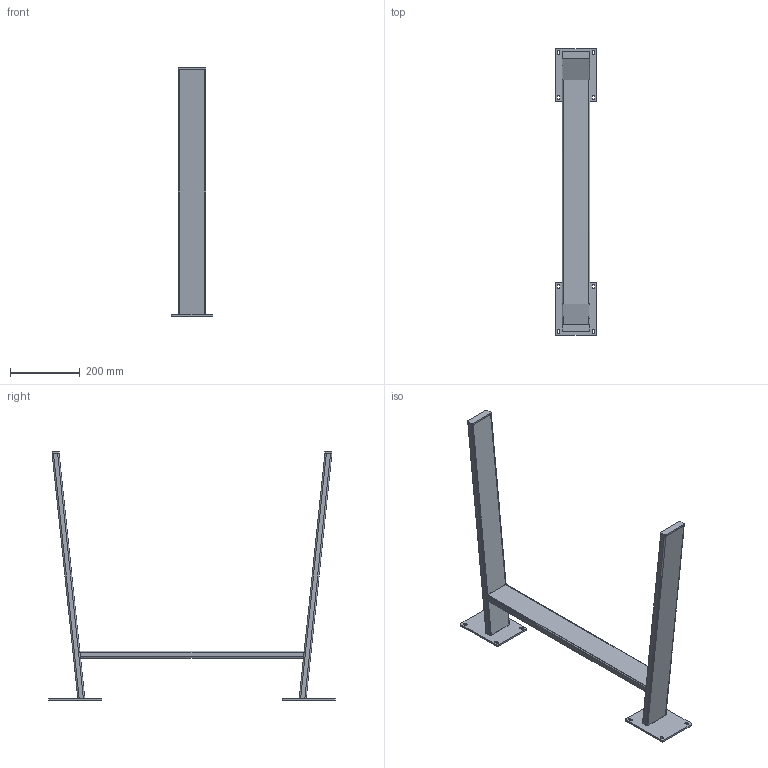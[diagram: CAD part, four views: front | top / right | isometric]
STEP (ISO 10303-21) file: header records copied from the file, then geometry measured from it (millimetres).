
FILE_DESCRIPTION(/* description */ (''),/* implementation_level */ '2;1');
FILE_NAME(/* name */ 'D:\$Workingspace\Designs\Meblowka\nogi\INDUSTRIA\NM-INDUSTRIA-H20-710X820-20M\NM-INDUSTRIA-H20-710X820-20M.stp',/* time_stamp */ '2021-01-08T11:59:24+01:00',/* author */ ('tomaszw'),/* organization */ (''),/* preprocessor_version */ 'ST-DEVELOPER v18.1',/* originating_system */ 'Autodesk Inventor 2020',/* authorisation */ '');
FILE_SCHEMA (('AUTOMOTIVE_DESIGN { 1 0 10303 214 3 1 1 }'));
Length unit declared in the file: millimetre
Products named in the file (6): NM-INDUSTRIA-H20-710X820-20M; mocowanie 120 x152; kątownik_1 H20; kątownik_2 H20; kątownik_3 H20; stopka_industria H20
Assembly tree (7 placements, depth 2):
  NM-INDUSTRIA-H20-710X820-20M
    mocowanie 120 x152  x2
    kątownik_1 H20
    kątownik_2 H20
    kątownik_3 H20
    stopka_industria H20  x2
Bounding box: 120 x 820 x 710 mm (x, y, z)
Volume: 956778.6 mm3; surface area: 853147.6 mm2
Topology: 7 solids, 7 shells, 126 faces, 344 edges, 240 vertices
Faces by surface type: plane 70, cylinder 40, bspline 16
Entity records: 3159 total; most frequent: CARTESIAN_POINT 599, DIRECTION 494, ORIENTED_EDGE 480, EDGE_CURVE 240, AXIS2_PLACEMENT_3D 167, LINE 160, VECTOR 160, VERTEX_POINT 160
